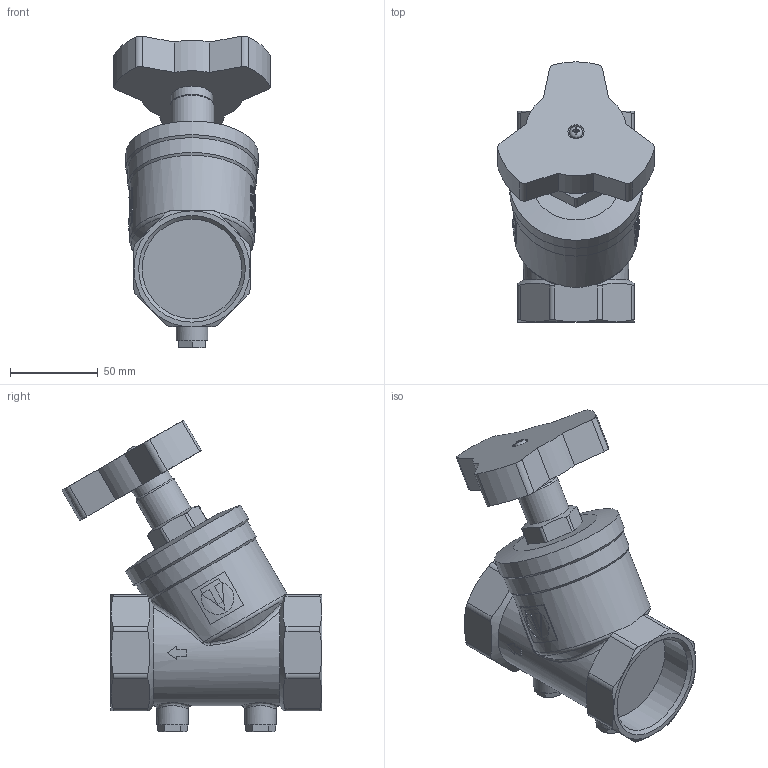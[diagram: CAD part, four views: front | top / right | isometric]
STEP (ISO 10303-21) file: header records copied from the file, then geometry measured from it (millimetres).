
FILE_DESCRIPTION(('STEP AP203'), '1');
FILE_NAME('覆.493116.007.000 捘 - VT.054.N.09', '2024-09-13T13:10:27', ('Boss'), (''), 'C3D Converter', 'C3D Toolkit', '');
FILE_SCHEMA(('CONFIG_CONTROL_DESIGN'));
Length unit declared in the file: millimetre
Products named in the file (3): ВР.493116.007.000 СБ
Assembly tree (2 placements, depth 2):
  ВР.493116.007.000 СБ
    (unnamed)
    (unnamed)
Bounding box: 89.31 x 147.84 x 177.44 mm (x, y, z)
Volume: 587943.6 mm3; surface area: 71415.5 mm2
Topology: 3 solids, 3 shells, 440 faces, 1162 edges, 758 vertices
Faces by surface type: plane 176, extrusion 124, cylinder 80, cone 47, bspline 9, torus 4
Full cylindrical faces by diameter (mm): 3.242 x1, 4 x1, 4.5 x1, 7.5 x1, 9.2 x1, 10 x1, 10.5 x1, 17.3 x1, 18 x2, 23.5 x1, 25 x1, 56.657 x2, 73 x1, 75.5 x1
Entity records: 25924 total; most frequent: CARTESIAN_POINT 15893, ORIENTED_EDGE 2262, DIRECTION 1575, EDGE_CURVE 1131, VERTEX_POINT 756, VECTOR 573, B_SPLINE_CURVE_WITH_KNOTS 566, AXIS2_PLACEMENT_3D 501
